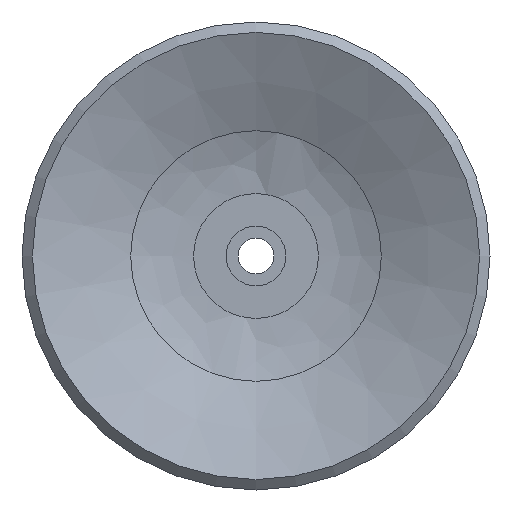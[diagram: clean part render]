
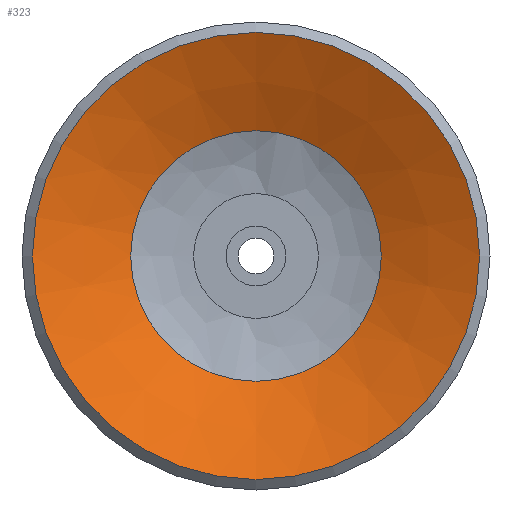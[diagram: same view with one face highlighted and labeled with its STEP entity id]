
A CAD part, front view. The second image highlights one B-rep face of the part: STEP entity #323.
In plain terms, the highlighted conical face has half-angle 65.056 degrees and reference radius 3.2 mm.
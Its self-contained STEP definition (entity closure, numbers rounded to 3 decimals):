
#323=ADVANCED_FACE('',(#476,#477),#478,.F.);
#476=FACE_BOUND('',#664,.T.);
#477=FACE_OUTER_BOUND('',#665,.T.);
#478=CONICAL_SURFACE('',#666,3.2,1.135);
#664=EDGE_LOOP('',(#968));
#665=EDGE_LOOP('',(#969));
#666=AXIS2_PLACEMENT_3D('',#970,#971,#972);
#968=ORIENTED_EDGE('',*,*,#1028,.T.);
#969=ORIENTED_EDGE('',*,*,#1042,.T.);
#970=CARTESIAN_POINT('',(-22.259,9.713,0.0));
#971=DIRECTION('',(-0.0,-1.0,0.));
#972=DIRECTION('',(0.0,0.,-1.0));
#1028=EDGE_CURVE('',#1143,#1143,#1144,.T.);
#1042=EDGE_CURVE('',#1171,#1171,#1172,.T.);
#1143=VERTEX_POINT('',#1311);
#1144=CIRCLE('',#1312,4.203);
#1171=VERTEX_POINT('',#1339);
#1172=CIRCLE('',#1340,7.5);
#1311=CARTESIAN_POINT('',(-22.259,9.246,-4.203));
#1312=AXIS2_PLACEMENT_3D('',#1450,#1451,#1452);
#1339=CARTESIAN_POINT('',(-22.259,7.713,-7.5));
#1340=AXIS2_PLACEMENT_3D('',#1492,#1493,#1494);
#1450=CARTESIAN_POINT('',(-22.259,9.246,0.0));
#1451=DIRECTION('',(0.0,1.0,0.));
#1452=DIRECTION('',(0.0,0.,-1.0));
#1492=CARTESIAN_POINT('',(-22.259,7.713,0.0));
#1493=DIRECTION('',(0.0,-1.0,0.));
#1494=DIRECTION('',(0.0,0.,-1.0));
